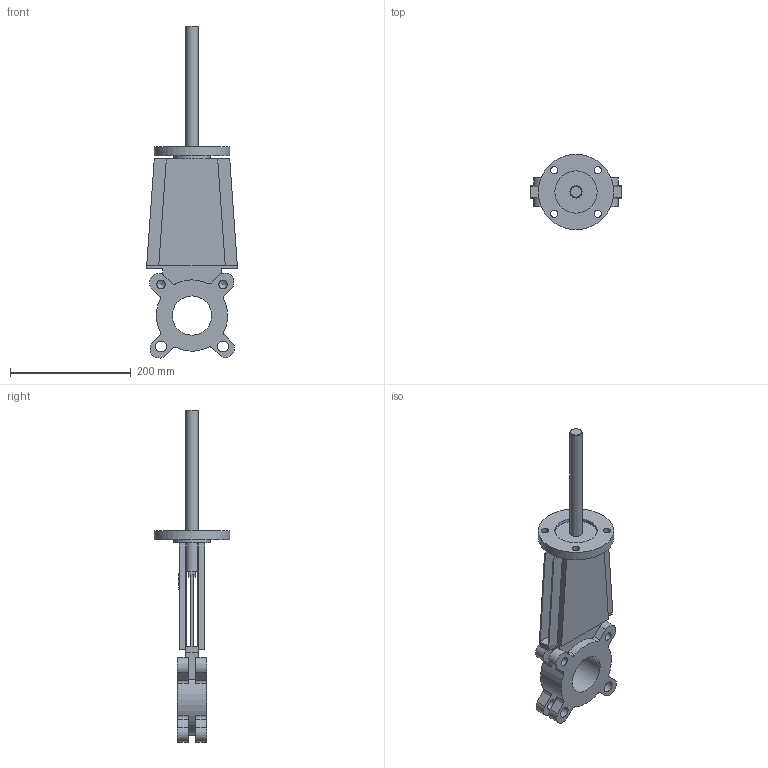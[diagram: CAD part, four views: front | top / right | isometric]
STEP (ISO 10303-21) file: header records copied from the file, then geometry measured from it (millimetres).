
FILE_DESCRIPTION(('STEP AP203'), '1');
FILE_NAME('K51GVA_DN65', '', ('UNSPECIFIED'), ('UNSPECIFIED'), 'ASCON STEP Converter 1.6', 'ASCON Math Kernel', '');
FILE_SCHEMA(('CONFIG_CONTROL_DESIGN'));
Length unit declared in the file: millimetre
Bounding box: 150 x 125 x 549.23 mm (x, y, z)
Volume: 956459.5 mm3; surface area: 263809.5 mm2
Topology: 1 solids, 1 shells, 159 faces, 446 edges, 289 vertices
Faces by surface type: plane 102, cylinder 52, cone 5
Full cylindrical faces by diameter (mm): 12 x4, 13.835 x4, 18 x4, 20 x2, 60 x1, 65 x1, 70 x1, 125 x1
Entity records: 6326 total; most frequent: DIRECTION 872, CARTESIAN_POINT 864, ORIENTED_EDGE 838, EDGE_CURVE 419, AXIS2_PLACEMENT_3D 293, LINE 286, VECTOR 286, VERTEX_POINT 285
